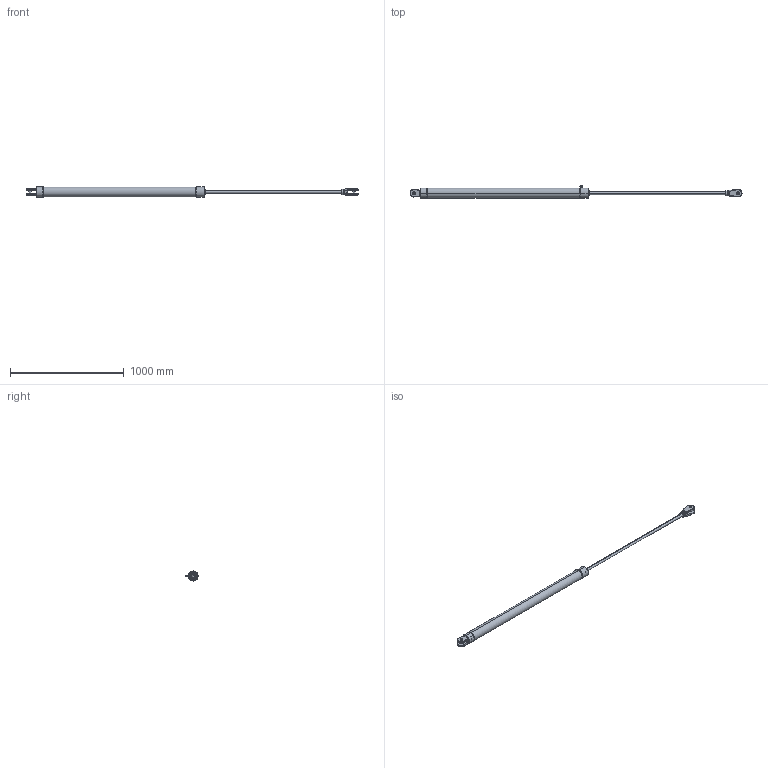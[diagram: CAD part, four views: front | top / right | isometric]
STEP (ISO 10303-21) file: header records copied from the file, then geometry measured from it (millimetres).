
FILE_DESCRIPTION (( 'STEP AP203' ), '1' );
FILE_NAME ('CL_070_S_1200.STEP', '2017-12-20T17:23:13', ( '' ), ( '' ), 'SwSTEP 2.0', 'SolidWorks 2015', '' );
FILE_SCHEMA (( 'CONFIG_CONTROL_DESIGN' ));
Length unit declared in the file: millimetre
Products named in the file (1): CL_070_S_1200
Bounding box: 2923.5 x 109.06 x 89 mm (x, y, z)
Volume: 10337846.1 mm3; surface area: 644679.6 mm2
Topology: 12 solids, 12 shells, 302 faces, 664 edges, 403 vertices
Faces by surface type: cylinder 104, plane 103, cone 59, torus 32, bspline 4
Entity records: 8970 total; most frequent: CARTESIAN_POINT 2205, DIRECTION 1503, ORIENTED_EDGE 1328, EDGE_CURVE 664, AXIS2_PLACEMENT_3D 615, VERTEX_POINT 403, EDGE_LOOP 321, CIRCLE 316
